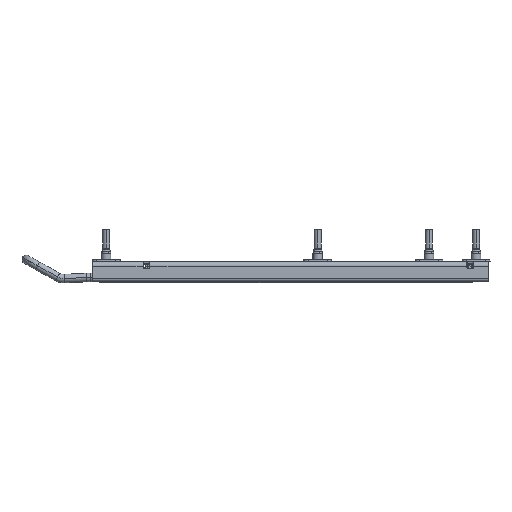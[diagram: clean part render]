
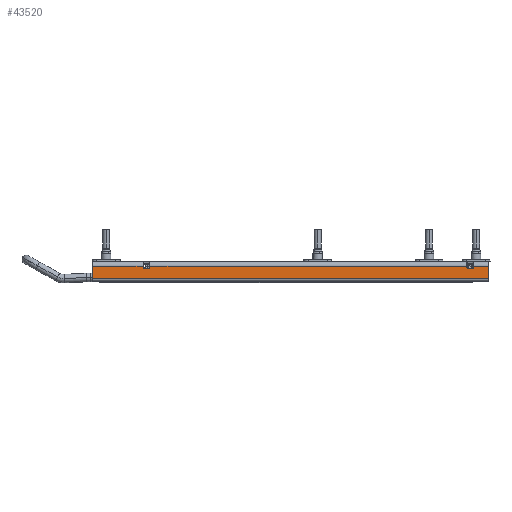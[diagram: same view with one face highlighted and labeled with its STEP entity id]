
A CAD part, front view. The second image highlights one B-rep face of the part: STEP entity #43520.
In plain terms, the highlighted planar face has unit normal (0, -1, 0).
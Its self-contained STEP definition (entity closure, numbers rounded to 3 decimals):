
#43195=AXIS2_PLACEMENT_3D('Circle Axis2P3D',#43193,#43194,$) ;
#43380=AXIS2_PLACEMENT_3D('Circle Axis2P3D',#43378,#43379,$) ;
#43393=AXIS2_PLACEMENT_3D('Plane Axis2P3D',#43390,#43391,#43392) ;
#43062=CARTESIAN_POINT('Vertex',(1480.315,-719.864,169.)) ;
#43132=CARTESIAN_POINT('Vertex',(1474.815,-719.863,169.)) ;
#43174=CARTESIAN_POINT('Line Origine',(1137.565,-719.823,169.)) ;
#43193=CARTESIAN_POINT('Axis2P3D Location',(1480.315,-719.864,170.25)) ;
#43197=CARTESIAN_POINT('Vertex',(1481.565,-719.864,170.25)) ;
#43375=CARTESIAN_POINT('Vertex',(1473.565,-719.863,170.25)) ;
#43378=CARTESIAN_POINT('Axis2P3D Location',(1474.815,-719.863,170.25)) ;
#43390=CARTESIAN_POINT('Axis2P3D Location',(1066.265,-719.815,172.)) ;
#43395=CARTESIAN_POINT('Line Origine',(1473.565,-719.863,171.125)) ;
#43399=CARTESIAN_POINT('Vertex',(1473.565,-719.863,172.)) ;
#43402=CARTESIAN_POINT('Line Origine',(1288.565,-719.841,172.)) ;
#43406=CARTESIAN_POINT('Vertex',(1103.565,-719.819,172.)) ;
#43409=CARTESIAN_POINT('Line Origine',(1103.565,-719.819,171.125)) ;
#43413=CARTESIAN_POINT('Vertex',(1103.565,-719.819,170.25)) ;
#43417=CARTESIAN_POINT('Control Point',(1103.565,-719.819,170.25)) ;
#43418=CARTESIAN_POINT('Control Point',(1103.565,-719.819,170.086)) ;
#43419=CARTESIAN_POINT('Control Point',(1103.538,-719.819,169.922)) ;
#43420=CARTESIAN_POINT('Control Point',(1103.484,-719.819,169.763)) ;
#43421=CARTESIAN_POINT('Control Point',(1103.326,-719.819,169.47)) ;
#43422=CARTESIAN_POINT('Control Point',(1103.083,-719.819,169.243)) ;
#43423=CARTESIAN_POINT('Control Point',(1102.943,-719.819,169.15)) ;
#43424=CARTESIAN_POINT('Control Point',(1102.732,-719.819,169.056)) ;
#43425=CARTESIAN_POINT('Control Point',(1102.507,-719.819,169.013)) ;
#43426=CARTESIAN_POINT('Control Point',(1102.443,-719.819,169.004)) ;
#43427=CARTESIAN_POINT('Control Point',(1102.379,-719.819,169.)) ;
#43428=CARTESIAN_POINT('Control Point',(1102.315,-719.819,169.)) ;
#43429=CARTESIAN_POINT('Vertex',(1102.315,-719.819,169.)) ;
#43432=CARTESIAN_POINT('Line Origine',(1099.565,-719.819,169.)) ;
#43436=CARTESIAN_POINT('Vertex',(1096.815,-719.819,169.)) ;
#43440=CARTESIAN_POINT('Control Point',(1096.815,-719.819,169.)) ;
#43441=CARTESIAN_POINT('Control Point',(1096.651,-719.819,169.)) ;
#43442=CARTESIAN_POINT('Control Point',(1096.486,-719.819,169.027)) ;
#43443=CARTESIAN_POINT('Control Point',(1096.328,-719.819,169.081)) ;
#43444=CARTESIAN_POINT('Control Point',(1096.035,-719.818,169.239)) ;
#43445=CARTESIAN_POINT('Control Point',(1095.808,-719.818,169.483)) ;
#43446=CARTESIAN_POINT('Control Point',(1095.715,-719.818,169.622)) ;
#43447=CARTESIAN_POINT('Control Point',(1095.621,-719.818,169.834)) ;
#43448=CARTESIAN_POINT('Control Point',(1095.577,-719.818,170.058)) ;
#43449=CARTESIAN_POINT('Control Point',(1095.569,-719.818,170.122)) ;
#43450=CARTESIAN_POINT('Control Point',(1095.565,-719.818,170.186)) ;
#43451=CARTESIAN_POINT('Control Point',(1095.565,-719.818,170.25)) ;
#43452=CARTESIAN_POINT('Vertex',(1095.565,-719.818,170.25)) ;
#43455=CARTESIAN_POINT('Line Origine',(1095.565,-719.818,171.125)) ;
#43459=CARTESIAN_POINT('Vertex',(1095.565,-719.818,172.)) ;
#43462=CARTESIAN_POINT('Line Origine',(1065.915,-719.815,172.)) ;
#43466=CARTESIAN_POINT('Vertex',(1036.265,-719.811,172.)) ;
#43469=CARTESIAN_POINT('Line Origine',(1036.265,-719.811,164.6)) ;
#43473=CARTESIAN_POINT('Vertex',(1036.265,-719.811,157.2)) ;
#43476=CARTESIAN_POINT('Line Origine',(1267.765,-719.839,157.2)) ;
#43480=CARTESIAN_POINT('Vertex',(1499.265,-719.866,157.2)) ;
#43483=CARTESIAN_POINT('Line Origine',(1499.265,-719.866,164.6)) ;
#43487=CARTESIAN_POINT('Vertex',(1499.265,-719.866,172.)) ;
#43490=CARTESIAN_POINT('Line Origine',(1490.415,-719.865,172.)) ;
#43494=CARTESIAN_POINT('Vertex',(1481.565,-719.864,172.)) ;
#43497=CARTESIAN_POINT('Line Origine',(1481.565,-719.864,171.125)) ;
#43175=DIRECTION('Vector Direction',(1.,0.,0.)) ;
#43194=DIRECTION('Axis2P3D Direction',(0.,1.,0.)) ;
#43379=DIRECTION('Axis2P3D Direction',(0.,1.,0.)) ;
#43391=DIRECTION('Axis2P3D Direction',(0.,-1.,0.)) ;
#43392=DIRECTION('Axis2P3D XDirection',(0.,0.,-1.)) ;
#43396=DIRECTION('Vector Direction',(0.,0.,-1.)) ;
#43403=DIRECTION('Vector Direction',(1.,0.,0.)) ;
#43410=DIRECTION('Vector Direction',(0.,0.,-1.)) ;
#43433=DIRECTION('Vector Direction',(1.,0.,0.)) ;
#43456=DIRECTION('Vector Direction',(0.,0.,-1.)) ;
#43463=DIRECTION('Vector Direction',(1.,0.,0.)) ;
#43470=DIRECTION('Vector Direction',(0.,0.,-1.)) ;
#43477=DIRECTION('Vector Direction',(1.,0.,0.)) ;
#43484=DIRECTION('Vector Direction',(0.,0.,-1.)) ;
#43491=DIRECTION('Vector Direction',(1.,0.,0.)) ;
#43498=DIRECTION('Vector Direction',(0.,0.,-1.)) ;
#43176=VECTOR('Line Direction',#43175,1.) ;
#43397=VECTOR('Line Direction',#43396,1.) ;
#43404=VECTOR('Line Direction',#43403,1.) ;
#43411=VECTOR('Line Direction',#43410,1.) ;
#43434=VECTOR('Line Direction',#43433,1.) ;
#43457=VECTOR('Line Direction',#43456,1.) ;
#43464=VECTOR('Line Direction',#43463,1.) ;
#43471=VECTOR('Line Direction',#43470,1.) ;
#43478=VECTOR('Line Direction',#43477,1.) ;
#43485=VECTOR('Line Direction',#43484,1.) ;
#43492=VECTOR('Line Direction',#43491,1.) ;
#43499=VECTOR('Line Direction',#43498,1.) ;
#43503=ORIENTED_EDGE('',*,*,#43199,.T.) ;
#43504=ORIENTED_EDGE('',*,*,#43178,.T.) ;
#43505=ORIENTED_EDGE('',*,*,#43382,.T.) ;
#43506=ORIENTED_EDGE('',*,*,#43401,.T.) ;
#43507=ORIENTED_EDGE('',*,*,#43408,.F.) ;
#43508=ORIENTED_EDGE('',*,*,#43415,.F.) ;
#43509=ORIENTED_EDGE('',*,*,#43431,.T.) ;
#43510=ORIENTED_EDGE('',*,*,#43438,.T.) ;
#43511=ORIENTED_EDGE('',*,*,#43454,.T.) ;
#43512=ORIENTED_EDGE('',*,*,#43461,.T.) ;
#43513=ORIENTED_EDGE('',*,*,#43468,.F.) ;
#43514=ORIENTED_EDGE('',*,*,#43475,.T.) ;
#43515=ORIENTED_EDGE('',*,*,#43482,.T.) ;
#43516=ORIENTED_EDGE('',*,*,#43489,.F.) ;
#43517=ORIENTED_EDGE('',*,*,#43496,.F.) ;
#43518=ORIENTED_EDGE('',*,*,#43501,.F.) ;
#43520=ADVANCED_FACE('\X2\51E04F554F53\X0\.62',(#43519),#43394,.T.) ;
#43416=B_SPLINE_CURVE_WITH_KNOTS('',5,(#43417,#43418,#43419,#43420,#43421,#43422,#43423,#43424,#43425,#43426,#43427,#43428),.UNSPECIFIED.,.F.,.U.,(6,3,3,6),(0.,1.166,2.333,2.787),.UNSPECIFIED.) ;
#43439=B_SPLINE_CURVE_WITH_KNOTS('',5,(#43440,#43441,#43442,#43443,#43444,#43445,#43446,#43447,#43448,#43449,#43450,#43451),.UNSPECIFIED.,.F.,.U.,(6,3,3,6),(0.,1.166,2.333,2.787),.UNSPECIFIED.) ;
#43196=CIRCLE('generated circle',#43195,1.25) ;
#43381=CIRCLE('generated circle',#43380,1.25) ;
#43178=EDGE_CURVE('',#43063,#43133,#43177,.F.) ;
#43199=EDGE_CURVE('',#43198,#43063,#43196,.T.) ;
#43382=EDGE_CURVE('',#43133,#43376,#43381,.T.) ;
#43401=EDGE_CURVE('',#43376,#43400,#43398,.F.) ;
#43408=EDGE_CURVE('',#43407,#43400,#43405,.T.) ;
#43415=EDGE_CURVE('',#43414,#43407,#43412,.F.) ;
#43431=EDGE_CURVE('',#43414,#43430,#43416,.T.) ;
#43438=EDGE_CURVE('',#43430,#43437,#43435,.F.) ;
#43454=EDGE_CURVE('',#43437,#43453,#43439,.T.) ;
#43461=EDGE_CURVE('',#43453,#43460,#43458,.F.) ;
#43468=EDGE_CURVE('',#43467,#43460,#43465,.T.) ;
#43475=EDGE_CURVE('',#43467,#43474,#43472,.T.) ;
#43482=EDGE_CURVE('',#43474,#43481,#43479,.T.) ;
#43489=EDGE_CURVE('',#43488,#43481,#43486,.T.) ;
#43496=EDGE_CURVE('',#43495,#43488,#43493,.T.) ;
#43501=EDGE_CURVE('',#43198,#43495,#43500,.F.) ;
#43502=EDGE_LOOP('',(#43503,#43504,#43505,#43506,#43507,#43508,#43509,#43510,#43511,#43512,#43513,#43514,#43515,#43516,#43517,#43518)) ;
#43519=FACE_OUTER_BOUND('',#43502,.T.) ;
#43177=LINE('Line',#43174,#43176) ;
#43398=LINE('Line',#43395,#43397) ;
#43405=LINE('Line',#43402,#43404) ;
#43412=LINE('Line',#43409,#43411) ;
#43435=LINE('Line',#43432,#43434) ;
#43458=LINE('Line',#43455,#43457) ;
#43465=LINE('Line',#43462,#43464) ;
#43472=LINE('Line',#43469,#43471) ;
#43479=LINE('Line',#43476,#43478) ;
#43486=LINE('Line',#43483,#43485) ;
#43493=LINE('Line',#43490,#43492) ;
#43500=LINE('Line',#43497,#43499) ;
#43394=PLANE('Plane',#43393) ;
#43063=VERTEX_POINT('',#43062) ;
#43133=VERTEX_POINT('',#43132) ;
#43198=VERTEX_POINT('',#43197) ;
#43376=VERTEX_POINT('',#43375) ;
#43400=VERTEX_POINT('',#43399) ;
#43407=VERTEX_POINT('',#43406) ;
#43414=VERTEX_POINT('',#43413) ;
#43430=VERTEX_POINT('',#43429) ;
#43437=VERTEX_POINT('',#43436) ;
#43453=VERTEX_POINT('',#43452) ;
#43460=VERTEX_POINT('',#43459) ;
#43467=VERTEX_POINT('',#43466) ;
#43474=VERTEX_POINT('',#43473) ;
#43481=VERTEX_POINT('',#43480) ;
#43488=VERTEX_POINT('',#43487) ;
#43495=VERTEX_POINT('',#43494) ;
